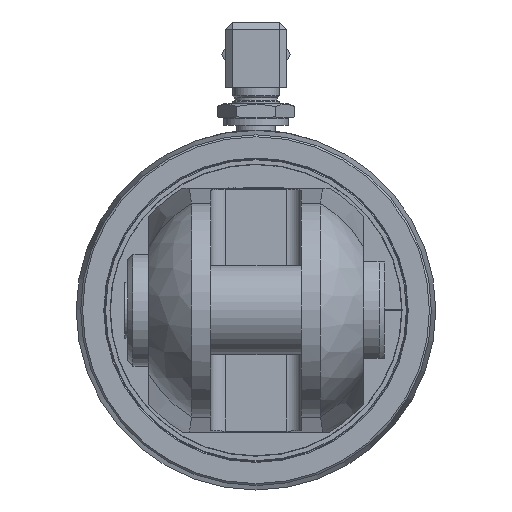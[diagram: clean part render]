
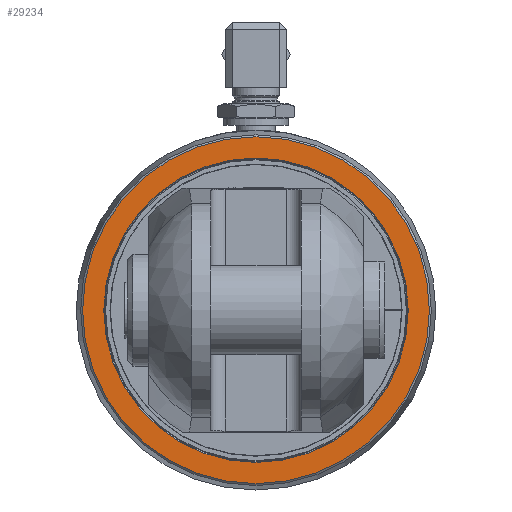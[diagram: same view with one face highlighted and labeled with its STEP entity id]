
A CAD part, left-side view. The second image highlights one B-rep face of the part: STEP entity #29234.
In plain terms, the highlighted planar face has unit normal (-1, 0, 0).
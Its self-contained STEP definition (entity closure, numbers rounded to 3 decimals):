
#845=PLANE('',#31022);
#1744=CIRCLE('',#31019,49.288);
#1746=CIRCLE('',#31023,43.25);
#3521=FACE_BOUND('',#5631,.T.);
#3935=FACE_OUTER_BOUND('',#5630,.T.);
#5630=EDGE_LOOP('',(#21470));
#5631=EDGE_LOOP('',(#21471));
#13993=VERTEX_POINT('',#38474);
#13995=VERTEX_POINT('',#38480);
#16911=EDGE_CURVE('',#13993,#13993,#1744,.T.);
#16913=EDGE_CURVE('',#13995,#13995,#1746,.T.);
#21470=ORIENTED_EDGE('',*,*,#16911,.F.);
#21471=ORIENTED_EDGE('',*,*,#16913,.F.);
#29234=ADVANCED_FACE('',(#3935,#3521),#845,.F.);
#31019=AXIS2_PLACEMENT_3D('',#38475,#32908,#32909);
#31022=AXIS2_PLACEMENT_3D('',#38479,#32914,#32915);
#31023=AXIS2_PLACEMENT_3D('',#38481,#32916,#32917);
#32908=DIRECTION('center_axis',(1.,0.,0.));
#32909=DIRECTION('ref_axis',(0.,-1.,0.));
#32914=DIRECTION('center_axis',(1.,0.,0.));
#32915=DIRECTION('ref_axis',(0.,0.,-1.));
#32916=DIRECTION('center_axis',(-1.,0.,0.));
#32917=DIRECTION('ref_axis',(0.,-1.,0.));
#38474=CARTESIAN_POINT('',(-435.5,49.288,0.));
#38475=CARTESIAN_POINT('Origin',(-435.5,0.,0.));
#38479=CARTESIAN_POINT('Origin',(-435.5,0.,0.));
#38480=CARTESIAN_POINT('',(-435.5,43.25,0.));
#38481=CARTESIAN_POINT('Origin',(-435.5,0.,0.));
